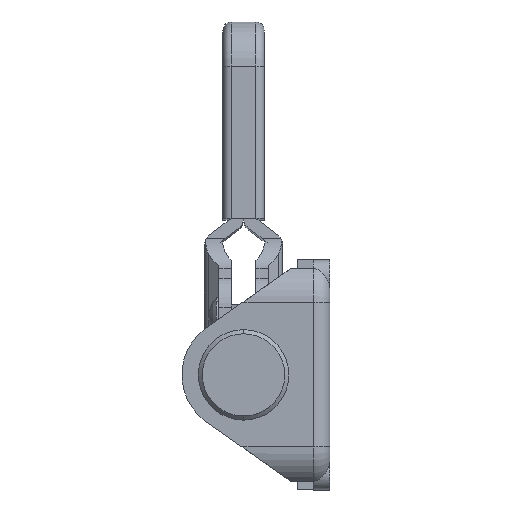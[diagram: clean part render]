
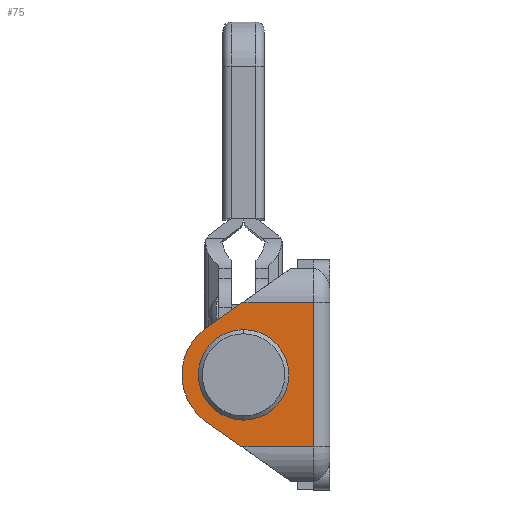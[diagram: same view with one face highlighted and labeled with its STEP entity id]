
A CAD part, left-side view. The second image highlights one B-rep face of the part: STEP entity #75.
In plain terms, the highlighted planar face has unit normal (-1, 0, 0).
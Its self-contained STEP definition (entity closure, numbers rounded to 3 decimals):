
#54 = VERTEX_POINT ( 'NONE', #9028 ) ;
#75 = ADVANCED_FACE ( 'NONE', ( #4966, #2012 ), #6278, .F. ) ;
#278 = DIRECTION ( 'NONE',  ( 0., 0., 1. ) ) ;
#397 = EDGE_CURVE ( 'NONE', #1429, #4695, #1396, .T. ) ;
#507 = CARTESIAN_POINT ( 'NONE',  ( -40., 10.694, 8.76 ) ) ;
#859 = CARTESIAN_POINT ( 'NONE',  ( -40., 18., -8.76 ) ) ;
#902 = LINE ( 'NONE', #6710, #5722 ) ;
#1165 = CARTESIAN_POINT ( 'NONE',  ( -40., 7.634, 10.902 ) ) ;
#1280 = ORIENTED_EDGE ( 'NONE', *, *, #4368, .T. ) ;
#1373 = ORIENTED_EDGE ( 'NONE', *, *, #3795, .F. ) ;
#1396 = LINE ( 'NONE', #859, #6563 ) ;
#1429 = VERTEX_POINT ( 'NONE', #6352 ) ;
#1458 = LINE ( 'NONE', #2991, #9080 ) ;
#1676 = DIRECTION ( 'NONE',  ( 0., 0., 1. ) ) ;
#1708 = AXIS2_PLACEMENT_3D ( 'NONE', #3918, #6844, #278 ) ;
#1747 = LINE ( 'NONE', #1165, #2500 ) ;
#2012 = FACE_OUTER_BOUND ( 'NONE', #7399, .T. ) ;
#2087 = DIRECTION ( 'NONE',  ( 0., -0.819, -0.574 ) ) ;
#2088 = DIRECTION ( 'NONE',  ( -1., 0., 0. ) ) ;
#2309 = CIRCLE ( 'NONE', #8904, 7. ) ;
#2500 = VECTOR ( 'NONE', #9049, 1000. ) ;
#2857 = CARTESIAN_POINT ( 'NONE',  ( -40., 11., 0. ) ) ;
#2991 = CARTESIAN_POINT ( 'NONE',  ( -40., 18., 8.76 ) ) ;
#3124 = EDGE_CURVE ( 'NONE', #54, #5993, #2309, .T. ) ;
#3223 = DIRECTION ( 'NONE',  ( -1., 0., 0. ) ) ;
#3391 = LINE ( 'NONE', #8704, #3859 ) ;
#3614 = CARTESIAN_POINT ( 'NONE',  ( -40., 2., 8.76 ) ) ;
#3739 = DIRECTION ( 'NONE',  ( 0., -1., 0. ) ) ;
#3795 = EDGE_CURVE ( 'NONE', #5391, #4712, #4001, .T. ) ;
#3859 = VECTOR ( 'NONE', #2087, 1000. ) ;
#3918 = CARTESIAN_POINT ( 'NONE',  ( -40., 10.5, 0. ) ) ;
#4001 = CIRCLE ( 'NONE', #1708, 4.25 ) ;
#4084 = EDGE_LOOP ( 'NONE', ( #5328, #1373 ) ) ;
#4368 = EDGE_CURVE ( 'NONE', #5993, #1429, #3391, .T. ) ;
#4637 = DIRECTION ( 'NONE',  ( 0., 0., 1. ) ) ;
#4653 = AXIS2_PLACEMENT_3D ( 'NONE', #9036, #3223, #1676 ) ;
#4663 = CARTESIAN_POINT ( 'NONE',  ( -40., 10.5, -4.25 ) ) ;
#4678 = EDGE_CURVE ( 'NONE', #54, #5480, #1747, .T. ) ;
#4695 = VERTEX_POINT ( 'NONE', #6238 ) ;
#4712 = VERTEX_POINT ( 'NONE', #9230 ) ;
#4809 = CIRCLE ( 'NONE', #4653, 4.25 ) ;
#4966 = FACE_BOUND ( 'NONE', #4084, .T. ) ;
#5045 = ORIENTED_EDGE ( 'NONE', *, *, #397, .T. ) ;
#5328 = ORIENTED_EDGE ( 'NONE', *, *, #8124, .F. ) ;
#5391 = VERTEX_POINT ( 'NONE', #4663 ) ;
#5480 = VERTEX_POINT ( 'NONE', #507 ) ;
#5722 = VECTOR ( 'NONE', #4637, 1000. ) ;
#5735 = ORIENTED_EDGE ( 'NONE', *, *, #8676, .F. ) ;
#5993 = VERTEX_POINT ( 'NONE', #9460 ) ;
#6037 = VERTEX_POINT ( 'NONE', #3614 ) ;
#6238 = CARTESIAN_POINT ( 'NONE',  ( -40., 2., -8.76 ) ) ;
#6278 = PLANE ( 'NONE',  #6550 ) ;
#6352 = CARTESIAN_POINT ( 'NONE',  ( -40., 10.694, -8.76 ) ) ;
#6550 = AXIS2_PLACEMENT_3D ( 'NONE', #8685, #7190, #7046 ) ;
#6563 = VECTOR ( 'NONE', #3739, 1000. ) ;
#6710 = CARTESIAN_POINT ( 'NONE',  ( -40., 2., 8.76 ) ) ;
#6844 = DIRECTION ( 'NONE',  ( -1., 0., 0. ) ) ;
#7046 = DIRECTION ( 'NONE',  ( 0., 0., -1. ) ) ;
#7190 = DIRECTION ( 'NONE',  ( 1., 0., 0. ) ) ;
#7215 = DIRECTION ( 'NONE',  ( 0., -1., 0. ) ) ;
#7399 = EDGE_LOOP ( 'NONE', ( #5045, #7525, #5735, #8344, #9144, #1280 ) ) ;
#7525 = ORIENTED_EDGE ( 'NONE', *, *, #8091, .T. ) ;
#8091 = EDGE_CURVE ( 'NONE', #4695, #6037, #902, .T. ) ;
#8124 = EDGE_CURVE ( 'NONE', #4712, #5391, #4809, .T. ) ;
#8344 = ORIENTED_EDGE ( 'NONE', *, *, #4678, .F. ) ;
#8676 = EDGE_CURVE ( 'NONE', #5480, #6037, #1458, .T. ) ;
#8685 = CARTESIAN_POINT ( 'NONE',  ( -40., 18., 8.76 ) ) ;
#8704 = CARTESIAN_POINT ( 'NONE',  ( -40., 7.634, -10.902 ) ) ;
#8904 = AXIS2_PLACEMENT_3D ( 'NONE', #2857, #2088, #9473 ) ;
#9028 = CARTESIAN_POINT ( 'NONE',  ( -40., 15.015, 5.734 ) ) ;
#9036 = CARTESIAN_POINT ( 'NONE',  ( -40., 10.5, 0. ) ) ;
#9049 = DIRECTION ( 'NONE',  ( 0., -0.819, 0.574 ) ) ;
#9080 = VECTOR ( 'NONE', #7215, 1000. ) ;
#9144 = ORIENTED_EDGE ( 'NONE', *, *, #3124, .T. ) ;
#9230 = CARTESIAN_POINT ( 'NONE',  ( -40., 10.5, 4.25 ) ) ;
#9460 = CARTESIAN_POINT ( 'NONE',  ( -40., 15.015, -5.734 ) ) ;
#9473 = DIRECTION ( 'NONE',  ( 0., 0., 1. ) ) ;
